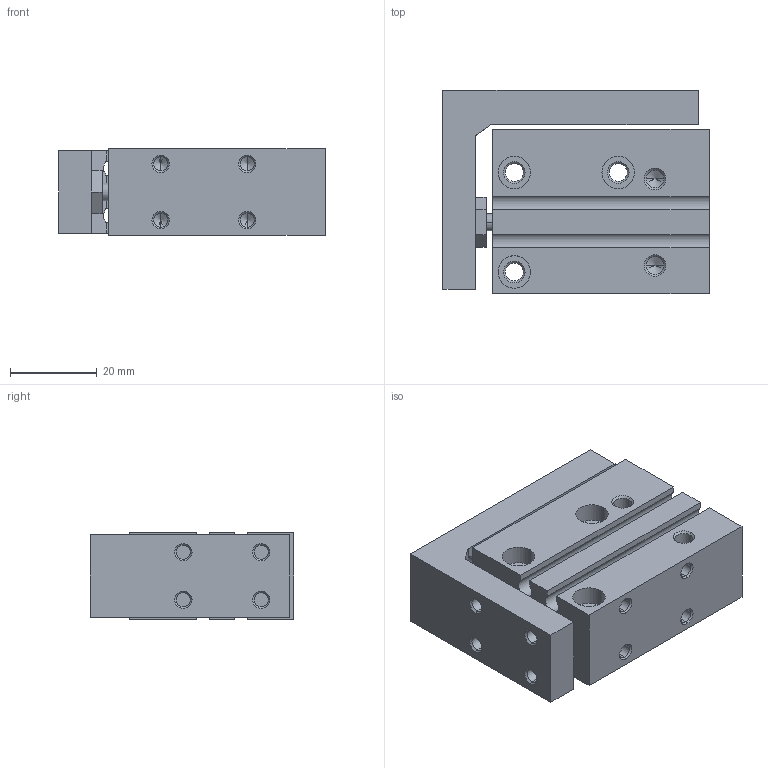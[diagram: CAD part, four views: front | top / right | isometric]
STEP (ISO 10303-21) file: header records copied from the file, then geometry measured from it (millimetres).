
FILE_DESCRIPTION (( 'STEP AP203' ), '1' );
FILE_NAME ('CXH10-15.STEP', '2020-04-16T18:06:17', ( '' ), ( '' ), 'SwSTEP 2.0', 'SolidWorks 2019', '' );
FILE_SCHEMA (( 'CONFIG_CONTROL_DESIGN' ));
Length unit declared in the file: millimetre
Products named in the file (1): CXH10-15
Bounding box: 61.5 x 47 x 20 mm (x, y, z)
Volume: 45265.2 mm3; surface area: 18939.4 mm2
Topology: 2 solids, 2 shells, 208 faces, 495 edges, 286 vertices
Faces by surface type: cone 88, cylinder 76, plane 44
Entity records: 5972 total; most frequent: DIRECTION 1093, CARTESIAN_POINT 1048, ORIENTED_EDGE 934, EDGE_CURVE 467, AXIS2_PLACEMENT_3D 421, VERTEX_POINT 286, EDGE_LOOP 253, LINE 251
